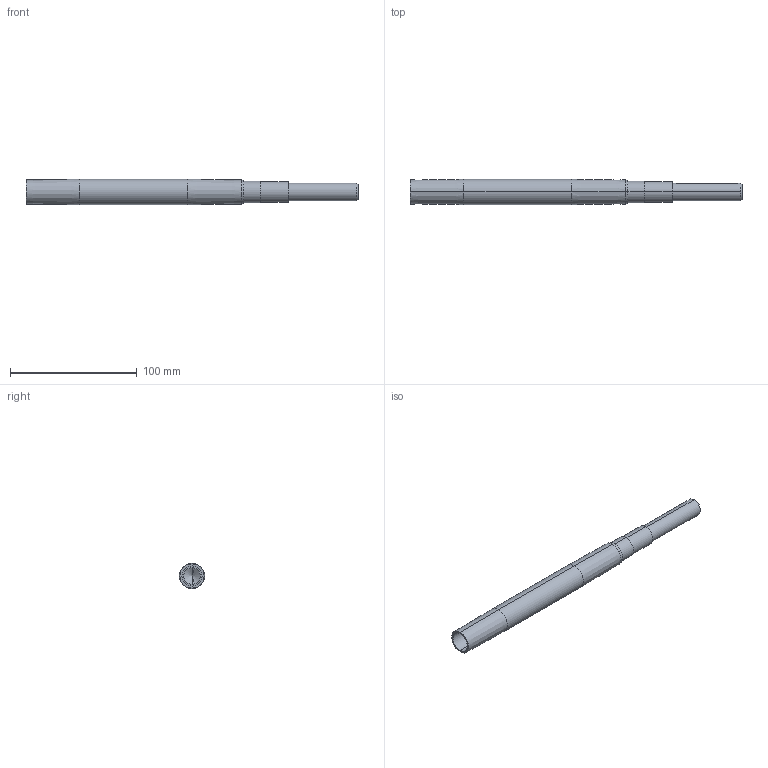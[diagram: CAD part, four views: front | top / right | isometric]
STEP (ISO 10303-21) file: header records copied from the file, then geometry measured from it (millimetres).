
FILE_DESCRIPTION (( 'STEP AP203' ), '1' );
FILE_NAME ('084.800.022.STEP', '2013-01-29T09:19:02', ( 'Alusic' ), ( 'Alusic' ), 'SwSTEP 2.0', 'SolidWorks 2011', '' );
FILE_SCHEMA (( 'CONFIG_CONTROL_DESIGN' ));
Length unit declared in the file: millimetre
Products named in the file (1): 084.800.022
Bounding box: 262 x 20 x 20 mm (x, y, z)
Volume: 60378.9 mm3; surface area: 17732.8 mm2
Topology: 1 solids, 1 shells, 38 faces, 80 edges, 48 vertices
Faces by surface type: cylinder 18, cone 10, plane 10
Entity records: 1131 total; most frequent: CARTESIAN_POINT 225, DIRECTION 192, ORIENTED_EDGE 152, AXIS2_PLACEMENT_3D 79, EDGE_CURVE 76, VERTEX_POINT 48, EDGE_LOOP 46, CIRCLE 40
